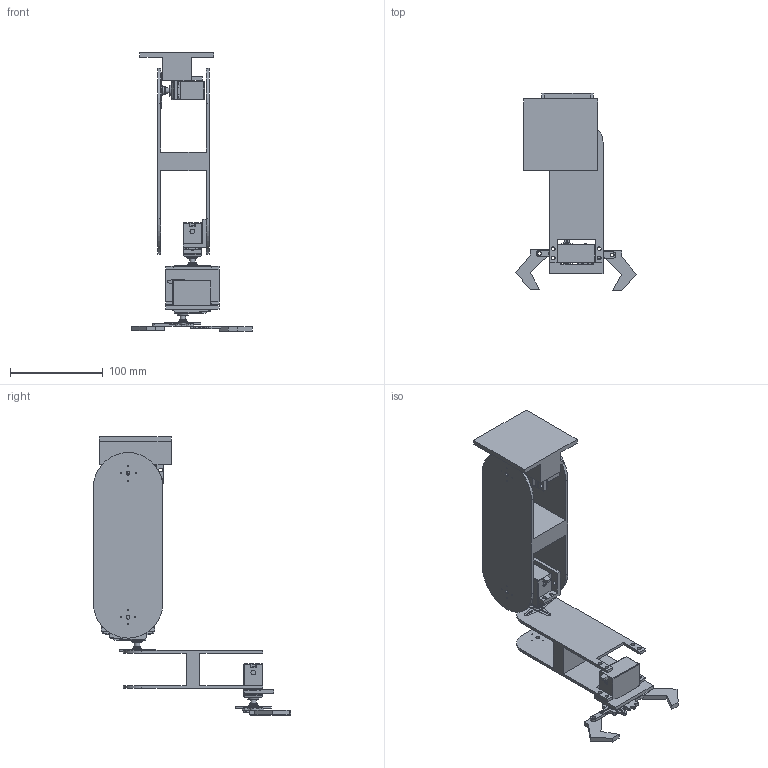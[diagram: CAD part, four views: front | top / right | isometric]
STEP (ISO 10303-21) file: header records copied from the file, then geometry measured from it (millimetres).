
FILE_DESCRIPTION(/* description */ ('STEP AP242','CAx-IF Rec.Pracs.---Representation and Presentation of Product Manufacturing Information (PMI)---4.0---2014-10-13','CAx-IF Rec.Pracs.---3D Tessellated Geometry---0.4---2014-09-14','2;1'),/* implementation_level */ '2;1');
FILE_NAME(/* name */ '65dac107f3c31e2e3b9e1fd6',/* time_stamp */ '2024-02-25T04:24:40Z',/* author */ (''),/* organization */ (''),/* preprocessor_version */ 'ST-DEVELOPER v19.4',/* originating_system */ ' ',/* authorisation */ ' ');
FILE_SCHEMA (('AP242_MANAGED_MODEL_BASED_3D_ENGINEERING_MIM_LF { 1 0 10303 442 1 1 4 }'));
Length unit declared in the file: metre
Products named in the file (10): Assembly 1; Part 1
Assembly tree (16 placements, depth 2):
  Assembly 1
    Part 1  x3
    Part 1
    Part 1
    Part 1  x3
    Part 1  x2
    Part 1  x2
    Part 1
    Part 1  x2
    Part 1
Bounding box: 130.15 x 212.62 x 299.92 mm (x, y, z)
Volume: 449248.1 mm3; surface area: 165648.6 mm2
Topology: 16 solids, 16 shells, 888 faces, 2485 edges, 1635 vertices
Faces by surface type: plane 423, cylinder 417, sphere 36, cone 6, torus 6
Full cylindrical faces by diameter (mm): 1.27 x48, 1.28 x24, 2.921 x3, 4 x34, 5.08 x3, 5.1 x2, 5.969 x9, 8.103 x3, 10.033 x3, 10.16 x3
Entity records: 12825 total; most frequent: DIRECTION 2240, CARTESIAN_POINT 2170, ORIENTED_EDGE 2006, EDGE_CURVE 1003, AXIS2_PLACEMENT_3D 847, VERTEX_POINT 719, EDGE_LOOP 616, FACE_BOUND 616
